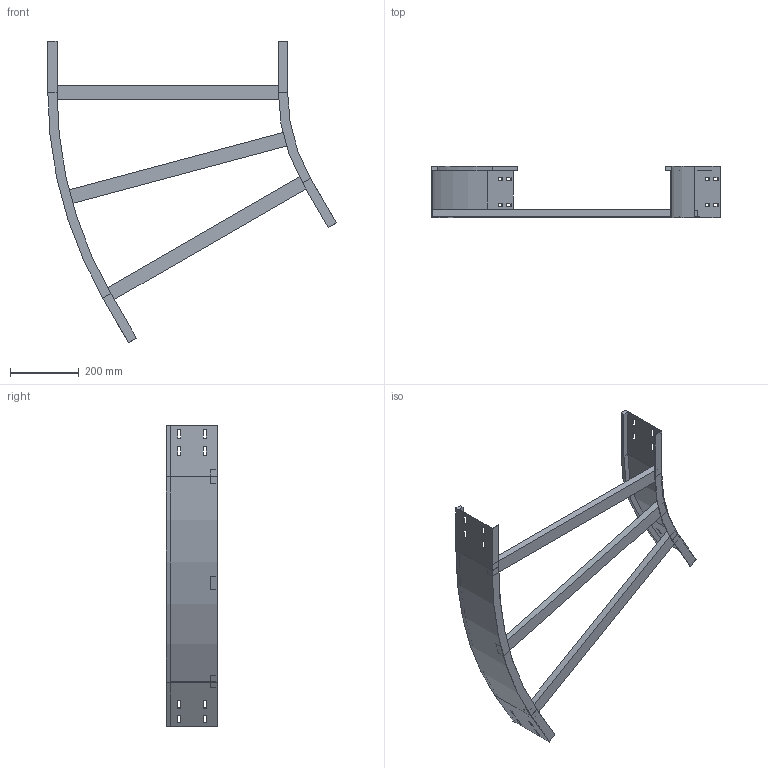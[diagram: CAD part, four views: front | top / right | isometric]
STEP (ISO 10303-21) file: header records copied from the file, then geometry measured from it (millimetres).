
FILE_DESCRIPTION (( 'STEP AP214' ), '1' );
FILE_NAME ('12J5F700.step', '2025-02-21T16:23:50', ( '' ), ( '' ), 'SwSTEP 2.0', 'SolidWorks 2023', '' );
FILE_SCHEMA (( 'AUTOMOTIVE_DESIGN' ));
Length unit declared in the file: millimetre
Products named in the file (4): TRAVERSINO_700; LONGH.ESTERNO 30°_H150_R500+700; LONGH.INTERNO 30°_H150_R500; 12J5F700
Assembly tree (5 placements, depth 2):
  12J5F700
    LONGH.INTERNO 30°_H150_R500
    LONGH.ESTERNO 30°_H150_R500+700
    TRAVERSINO_700  x3
Bounding box: 841.99 x 150 x 879.9 mm (x, y, z)
Volume: 2491723.9 mm3; surface area: 829837.5 mm2
Topology: 5 solids, 5 shells, 134 faces, 340 edges, 216 vertices
Faces by surface type: plane 126, cylinder 8
Entity records: 3821 total; most frequent: CARTESIAN_POINT 646, ORIENTED_EDGE 632, DIRECTION 592, EDGE_CURVE 316, VECTOR 300, LINE 300, VERTEX_POINT 200, EDGE_LOOP 154
